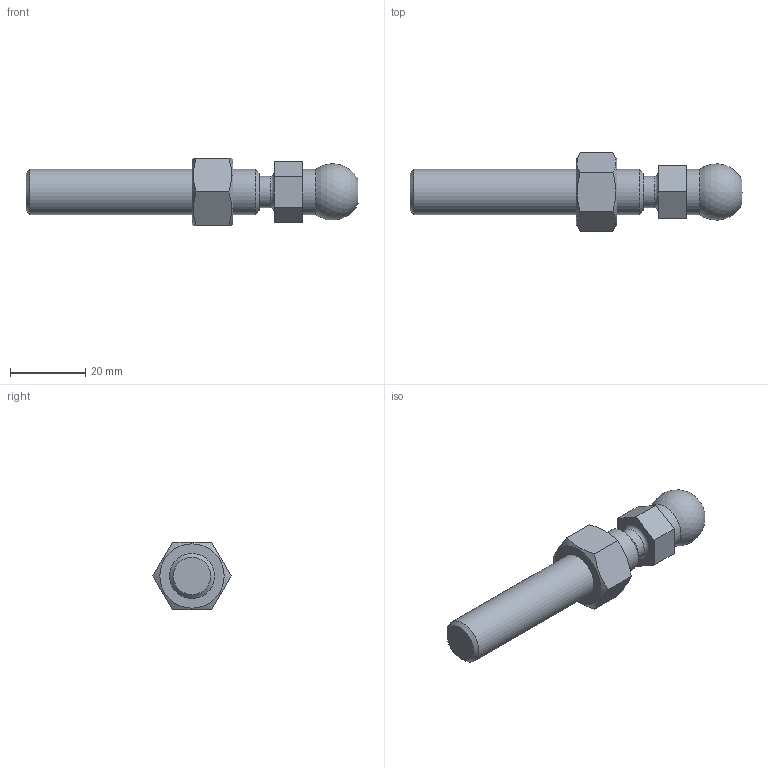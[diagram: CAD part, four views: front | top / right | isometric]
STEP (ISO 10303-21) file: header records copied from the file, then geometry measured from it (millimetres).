
FILE_DESCRIPTION(('STEP AP203'), '1');
FILE_NAME('A00020.112066', '', ('UNSPECIFIED'), ('UNSPECIFIED'), 'C3D Converter', 'C3D Toolkit', '');
FILE_SCHEMA(('CONFIG_CONTROL_DESIGN'));
Length unit declared in the file: millimetre
Products named in the file (2): A00020.112066
Assembly tree (1 placements, depth 2):
  A00020.112066
    (unnamed)
Bounding box: 88.3 x 20.78 x 18 mm (x, y, z)
Volume: 12460 mm3; surface area: 5129.6 mm2
Topology: 2 solids, 2 shells, 31 faces, 64 edges, 40 vertices
Faces by surface type: plane 19, cone 6, cylinder 4, torus 1, sphere 1
Full cylindrical faces by diameter (mm): 8.3 x1, 10.647 x1, 12 x2
Entity records: 1399 total; most frequent: CARTESIAN_POINT 701, DIRECTION 122, ORIENTED_EDGE 104, EDGE_CURVE 52, AXIS2_PLACEMENT_3D 49, EDGE_LOOP 48, VERTEX_POINT 40, ADVANCED_FACE 31
